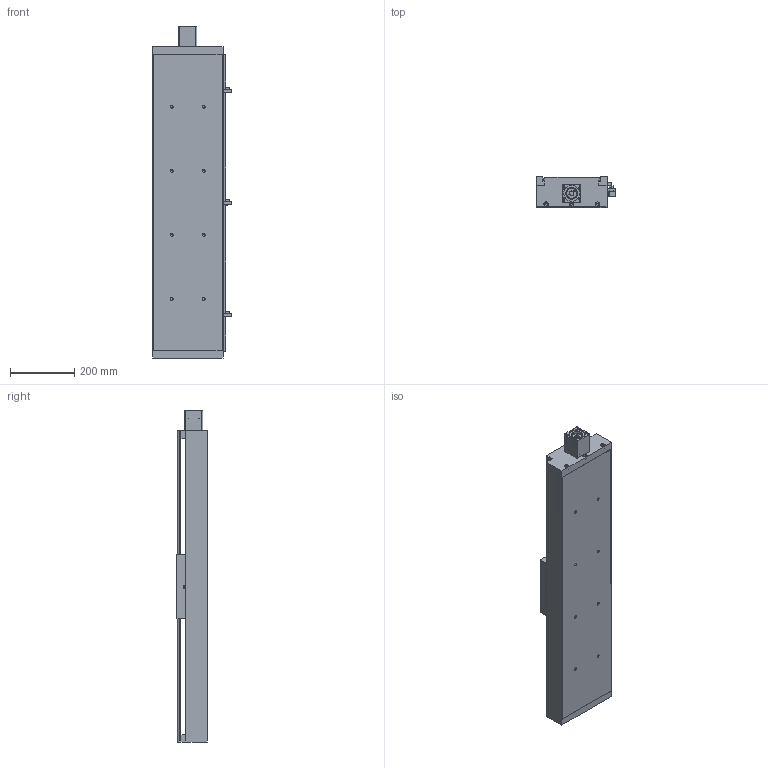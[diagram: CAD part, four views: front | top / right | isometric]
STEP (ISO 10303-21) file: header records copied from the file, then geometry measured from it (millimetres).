
FILE_DESCRIPTION((''),'2;1');
FILE_NAME('E:\libraries\UIA actuator library 2016\standard actuator\UIA220R20NDC\UIA220R20NDC ball screw 20\UIA220R20NDC-_ _ _-R20_ _ stp file, 01May16\UIA220R20NDC-700-R20_ _.stp','2016-04-29T15:27:08',('h029'),(''),'Autodesk Inventor 11','Autodesk Inventor 11','');
FILE_SCHEMA(('AUTOMOTIVE_DESIGN { 1 0 10303 214 1 1 1 1 }'));
Length unit declared in the file: millimetre
Products named in the file (10): UIA220R20NDC-700-R20_ _; UIA220R20NDC-body; 41-100 0010 CARRIAGE; sensor rail; Sensor Switch; motor mount M60; SOH-32C; SOH-32C-3; SOH-32C-1; SOH-32C-2
Assembly tree (9 placements, depth 3):
  UIA220R20NDC-700-R20_ _
    UIA220R20NDC-body
    41-100 0010 CARRIAGE
    sensor rail
    Sensor Switch
    motor mount M60
    SOH-32C
      SOH-32C-3
      SOH-32C-1
      SOH-32C-2
Bounding box: 246.5 x 96 x 1036 mm (x, y, z)
Volume: 6145805.3 mm3; surface area: 1448395.1 mm2
Topology: 8 solids, 8 shells, 512 faces, 1366 edges, 898 vertices
Faces by surface type: plane 341, bspline 121, cylinder 48, cone 2
Full cylindrical faces by diameter (mm): 3.242 x2, 4.5 x2, 7 x4, 7.5 x2, 12 x2, 13.8 x3, 14 x4, 15 x1, 32 x3, 37 x1, 46.9 x1, 47.1 x1
Entity records: 16726 total; most frequent: CARTESIAN_POINT 4732, ORIENTED_EDGE 2330, DIRECTION 2281, EDGE_CURVE 1165, VECTOR 849, LINE 849, VERTEX_POINT 824, EDGE_LOOP 743
